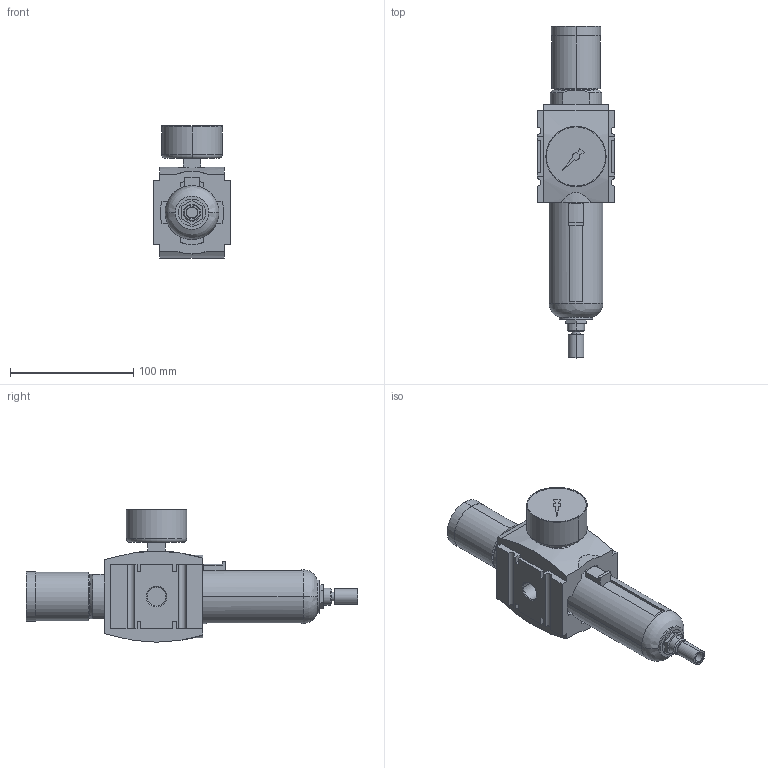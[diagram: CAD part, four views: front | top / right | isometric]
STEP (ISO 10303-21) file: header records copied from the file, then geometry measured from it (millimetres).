
FILE_DESCRIPTION((''),'2;1');
FILE_NAME('R412007201_ASM','2019-08-21T',('PDH2HC'),(''),'CREO PARAMETRIC BY PTC INC, 2016260','CREO PARAMETRIC BY PTC INC, 2016260','');
FILE_SCHEMA(('CONFIG_CONTROL_DESIGN'));
Length unit declared in the file: millimetre
Products named in the file (4): R412007201; AS3_RES_FILTER_FULLY; R412004417; R412007201_ASM
Assembly tree (3 placements, depth 2):
  R412007201_ASM
    R412007201
    AS3_RES_FILTER_FULLY
    R412004417
Bounding box: 63 x 269.5 x 107.5 mm (x, y, z)
Volume: 580428.9 mm3; surface area: 76187.8 mm2
Topology: 3 solids, 3 shells, 231 faces, 567 edges, 370 vertices
Faces by surface type: plane 141, cylinder 64, cone 18, torus 6, bspline 2
Entity records: 7212 total; most frequent: CARTESIAN_POINT 1475, DIRECTION 1217, ORIENTED_EDGE 1134, EDGE_CURVE 567, AXIS2_PLACEMENT_3D 422, VECTOR 373, LINE 373, VERTEX_POINT 370
